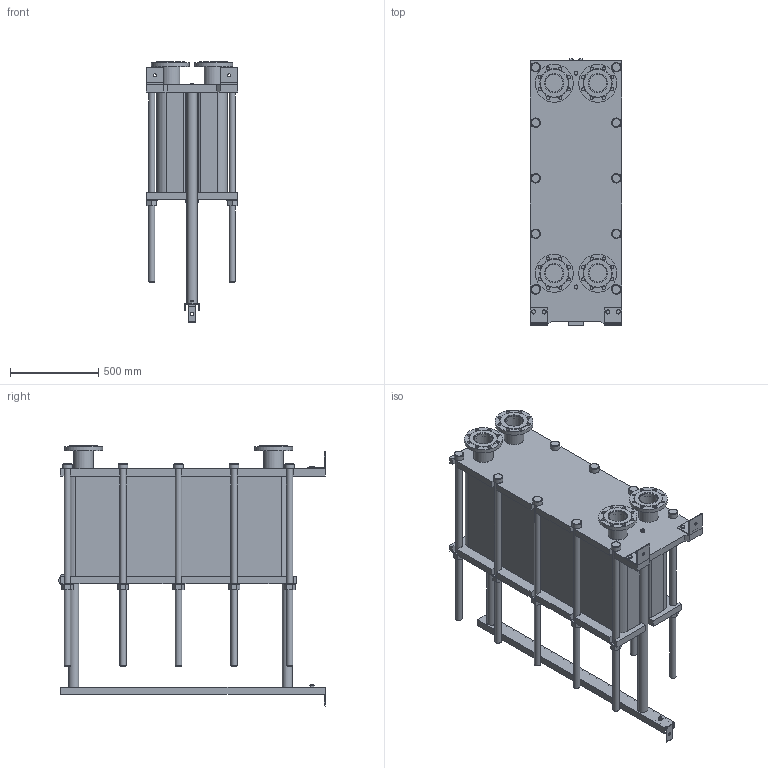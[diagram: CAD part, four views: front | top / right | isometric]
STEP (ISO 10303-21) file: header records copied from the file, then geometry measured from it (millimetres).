
FILE_DESCRIPTION(/* description */ (''),/* implementation_level */ '2;1');
FILE_NAME(/* name */ 'C:\Users\zhuro\Desktop\ENCO\TO\ЭН-04\ЭН-0,5-04-165-1.stp',/* time_stamp */ '2022-06-06T10:59:52+03:00',/* author */ ('zhuro'),/* organization */ (''),/* preprocessor_version */ 'ST-DEVELOPER v18.1',/* originating_system */ 'Autodesk Inventor 2022',/* authorisation */ '');
FILE_SCHEMA (('AUTOMOTIVE_DESIGN { 1 0 10303 214 3 1 1 }'));
Length unit declared in the file: millimetre
Products named in the file (1): ЭН-0,5-04-165-1
Bounding box: 520 x 1510 x 1472.5 mm (x, y, z)
Volume: 359191044.2 mm3; surface area: 9784618.1 mm2
Topology: 45 solids, 45 shells, 668 faces, 1611 edges, 1048 vertices
Faces by surface type: plane 457, cylinder 166, cone 39, torus 6
Full cylindrical faces by diameter (mm): 8 x4, 10 x2, 16 x8, 18 x35, 36 x25, 40 x2, 42 x1, 45 x4, 54 x10, 57 x2, 60 x10, 68 x2, 100 x4, 110 x8, 215 x4
Entity records: 23607 total; most frequent: CARTESIAN_POINT 7348, DIRECTION 3371, ORIENTED_EDGE 3142, EDGE_CURVE 1571, AXIS2_PLACEMENT_3D 1199, VERTEX_POINT 1044, LINE 973, VECTOR 973
